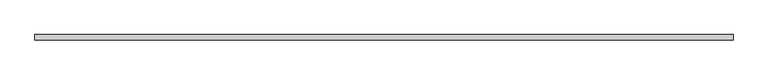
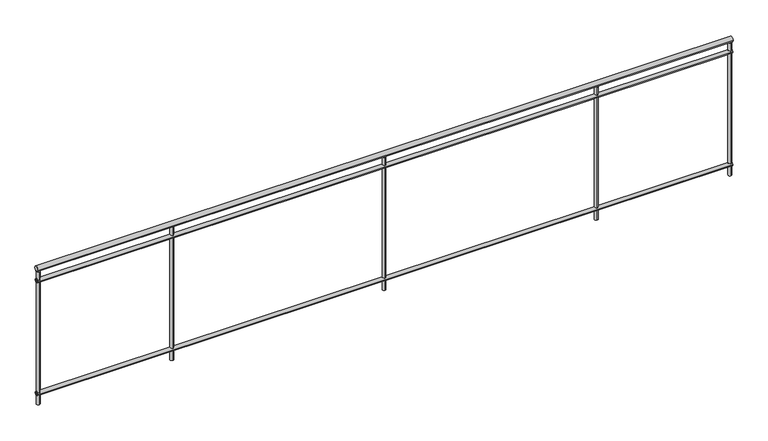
"""IFC4 building model written with IfcOpenShell, lengths in millimetres: railing geometry, バルコニー手摺."""

from ifc_helpers import new_model, si_unit, point, frame, frame_2d, origin, place, context, project, spatial, circle_curve, trimmed, segment, composite_curve, outline, extrude, source, transform, mapped, element, save


def railing_37b0c0b0(model_context):
    return source(origin(), model_context, "Body", "SweptSolid", [
        extrude(outline(composite_curve([segment(trimmed(circle_curve(frame_2d((10035.2598658, 10980.0)), 20.0), [point((10055.2598658, 10980.0))], [point((10015.2598658, 10980.0))], False, "CARTESIAN"), True, "CONTINUOUS"), segment(trimmed(circle_curve(frame_2d((10035.2598658, 10980.0)), 20.0), [point((10015.2598658, 10980.0))], [point((10055.2598658, 10980.0))], False, "CARTESIAN"), True, "CONTINUOUS")], self_intersect=False)), frame((9854.3805905, 0.0, 0.0), z_axis=(1.0, 0.0, 0.0), x_axis=(0.0, 1.0, 0.0)), (0.0, 0.0, 1.0), 5240.0),
        extrude(outline(composite_curve([segment(trimmed(circle_curve(frame_2d((10035.2598658, 10885.0)), 15.0), [point((10050.2598658, 10885.0))], [point((10020.2598658, 10885.0))], False, "CARTESIAN"), True, "CONTINUOUS"), segment(trimmed(circle_curve(frame_2d((10035.2598658, 10885.0)), 15.0), [point((10020.2598658, 10885.0))], [point((10050.2598658, 10885.0))], False, "CARTESIAN"), True, "CONTINUOUS")], self_intersect=False)), frame((9854.3805905, 0.0, 0.0), z_axis=(1.0, 0.0, 0.0), x_axis=(0.0, 1.0, 0.0)), (0.0, 0.0, 1.0), 5240.0),
        extrude(outline(composite_curve([segment(trimmed(circle_curve(frame_2d((10035.2598658, 9985.0)), 15.0), [point((10050.2598658, 9985.0))], [point((10020.2598658, 9985.0))], False, "CARTESIAN"), True, "CONTINUOUS"), segment(trimmed(circle_curve(frame_2d((10035.2598658, 9985.0)), 15.0), [point((10020.2598658, 9985.0))], [point((10050.2598658, 9985.0))], False, "CARTESIAN"), True, "CONTINUOUS")], self_intersect=False)), frame((9854.3805905, 0.0, 0.0), z_axis=(1.0, 0.0, 0.0), x_axis=(0.0, 1.0, 0.0)), (0.0, 0.0, 1.0), 5240.0),
        extrude(outline(composite_curve([segment(trimmed(circle_curve(frame_2d((10874.3805905, 10035.2598658)), 12.5), [point((10874.3805905, 10047.7598658))], [point((10874.3805905, 10022.7598658))], False, "CARTESIAN"), True, "CONTINUOUS"), segment(trimmed(circle_curve(frame_2d((10874.3805905, 10035.2598658)), 12.5), [point((10874.3805905, 10022.7598658))], [point((10874.3805905, 10047.7598658))], False, "CARTESIAN"), True, "CONTINUOUS")], self_intersect=False)), frame((0.0, 0.0, 9900.0), z_axis=(0.0, 0.0, 1.0), x_axis=(1.0, 0.0, 0.0)), (0.0, 0.0, 1.0), 1060.0),
        extrude(outline(composite_curve([segment(trimmed(circle_curve(frame_2d((12474.3805905, 10035.2598658)), 12.5), [point((12474.3805905, 10047.7598658))], [point((12474.3805905, 10022.7598658))], False, "CARTESIAN"), True, "CONTINUOUS"), segment(trimmed(circle_curve(frame_2d((12474.3805905, 10035.2598658)), 12.5), [point((12474.3805905, 10022.7598658))], [point((12474.3805905, 10047.7598658))], False, "CARTESIAN"), True, "CONTINUOUS")], self_intersect=False)), frame((0.0, 0.0, 9900.0), z_axis=(0.0, 0.0, 1.0), x_axis=(1.0, 0.0, 0.0)), (0.0, 0.0, 1.0), 1060.0),
        extrude(outline(composite_curve([segment(trimmed(circle_curve(frame_2d((14074.3805905, 10035.2598658)), 12.5), [point((14074.3805905, 10047.7598658))], [point((14074.3805905, 10022.7598658))], False, "CARTESIAN"), True, "CONTINUOUS"), segment(trimmed(circle_curve(frame_2d((14074.3805905, 10035.2598658)), 12.5), [point((14074.3805905, 10022.7598658))], [point((14074.3805905, 10047.7598658))], False, "CARTESIAN"), True, "CONTINUOUS")], self_intersect=False)), frame((0.0, 0.0, 9900.0), z_axis=(0.0, 0.0, 1.0), x_axis=(1.0, 0.0, 0.0)), (0.0, 0.0, 1.0), 1060.0),
        extrude(outline(composite_curve([segment(trimmed(circle_curve(frame_2d((9866.5805905, 10035.2598658)), 12.5), [point((9866.5805905, 10047.7598658))], [point((9866.5805905, 10022.7598658))], False, "CARTESIAN"), True, "CONTINUOUS"), segment(trimmed(circle_curve(frame_2d((9866.5805905, 10035.2598658)), 12.5), [point((9866.5805905, 10022.7598658))], [point((9866.5805905, 10047.7598658))], False, "CARTESIAN"), True, "CONTINUOUS")], self_intersect=False)), frame((0.0, 0.0, 9900.0), z_axis=(0.0, 0.0, 1.0), x_axis=(1.0, 0.0, 0.0)), (0.0, 0.0, 1.0), 1060.0),
        extrude(outline(composite_curve([segment(trimmed(circle_curve(frame_2d((15082.1805905, 10035.2598658)), 12.5), [point((15082.1805905, 10047.7598658))], [point((15082.1805905, 10022.7598658))], False, "CARTESIAN"), True, "CONTINUOUS"), segment(trimmed(circle_curve(frame_2d((15082.1805905, 10035.2598658)), 12.5), [point((15082.1805905, 10022.7598658))], [point((15082.1805905, 10047.7598658))], False, "CARTESIAN"), True, "CONTINUOUS")], self_intersect=False)), frame((0.0, 0.0, 9900.0), z_axis=(0.0, 0.0, 1.0), x_axis=(1.0, 0.0, 0.0)), (0.0, 0.0, 1.0), 1060.0),
    ])


if __name__ == "__main__":
    model = new_model("IFC4")
    model_context = context("Model", 3, world=origin())
    ifc_project = project(units=[si_unit("LENGTHUNIT", "METRE", prefix="MILLI")], contexts=[model_context])
    site = spatial("IfcSite", under=ifc_project)
    building = spatial("IfcBuilding", under=site)
    placement = place(None, origin())
    railing_shape = railing_37b0c0b0(model_context)
    element("IfcRailing", 1, ObjectType="バルコニー手摺", at=placement, inside=building, context=model_context, shape_type="MappedRepresentation", body=[
        mapped(railing_shape, transform((0.0, 0.0, 0.0), x_axis=(1.0, 0.0, 0.0), y_axis=(0.0, 1.0, 0.0), z_axis=(0.0, 0.0, 1.0))),
    ])
    save(model, "model.ifc")
